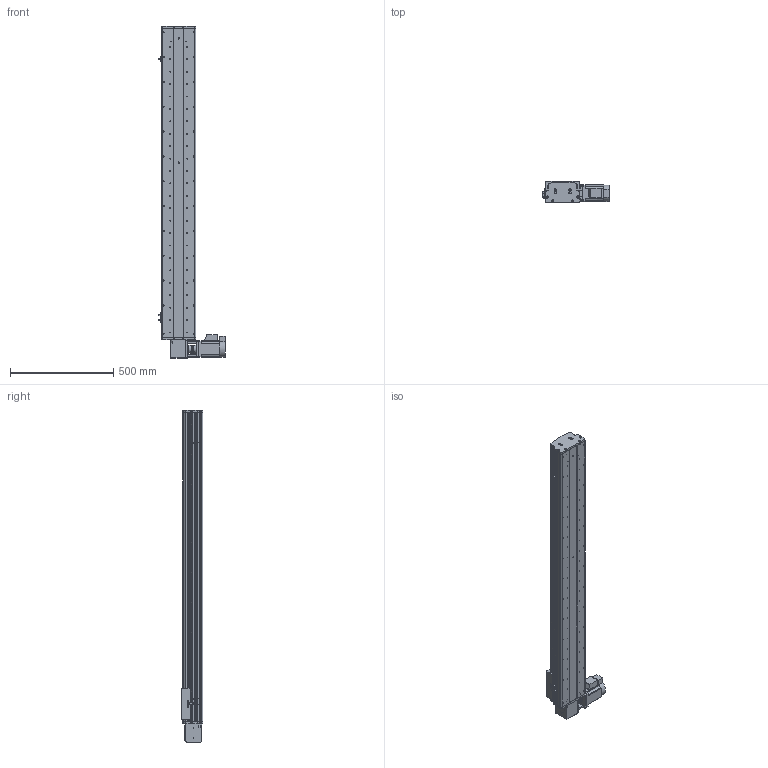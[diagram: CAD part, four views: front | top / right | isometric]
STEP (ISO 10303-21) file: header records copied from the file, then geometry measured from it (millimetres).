
FILE_DESCRIPTION (( 'STEP AP214' ), '1' );
FILE_NAME ('KSD165B-S1250-MRT-CM.STEP', '2017-08-14T06:06:17', ( '微软用户' ), ( '微软中国' ), 'SwSTEP 2.0', 'SolidWorks 2014', '' );
FILE_SCHEMA (( 'AUTOMOTIVE_DESIGN' ));
Length unit declared in the file: millimetre
Products named in the file (16): 165宽安装板同步带带电机座750W; 165宽马达安装板同步带右; C39ㄜ1419WP; U倰嫖萇假蚾璃; U倰嫖萇EEㄜSX672; 覜茼え68遵圉猾敕; KSD165模组-同步带-防撞垫2; KSD165模组同步带-防撞垫1; KSD165耀郪-ヶ傷啣1-肮祭湍; KSD165模组-后端板1-同步带; 130宽马达安装板1-带电机座750W（1）; KSD165模组-同步带滑动座-最新版; KSD165B-S1250-MRT-CM; KSD165模组-同步带防尘盖1-1250行程; KSD165模组同步带底板-1250行程; 拸秶雄ん750W侜督萇儂
Assembly tree (19 placements, depth 2):
  KSD165B-S1250-MRT-CM
    KSD165模组-同步带滑动座-最新版
    130宽马达安装板1-带电机座750W（1）
    KSD165模组-后端板1-同步带
    KSD165耀郪-ヶ傷啣1-肮祭湍
    KSD165模组同步带-防撞垫1
    KSD165模组-同步带-防撞垫2
    覜茼え68遵圉猾敕
    U倰嫖萇EEㄜSX672  x3
    U倰嫖萇假蚾璃  x3
    C39ㄜ1419WP
    165宽马达安装板同步带右
    165宽安装板同步带带电机座750W
    拸秶雄ん750W侜督萇儂
    KSD165模组同步带底板-1250行程
    KSD165模组-同步带防尘盖1-1250行程
Bounding box: 321.2 x 104 x 1604 mm (x, y, z)
Volume: 9014127.9 mm3; surface area: 2046494.5 mm2
Topology: 20 solids, 20 shells, 1550 faces, 4326 edges, 2805 vertices
Faces by surface type: cylinder 871, plane 585, cone 94
Entity records: 49943 total; most frequent: CARTESIAN_POINT 10457, DIRECTION 7736, ORIENTED_EDGE 7304, EDGE_CURVE 3652, AXIS2_PLACEMENT_3D 2956, VERTEX_POINT 2397, LINE 1824, VECTOR 1824
